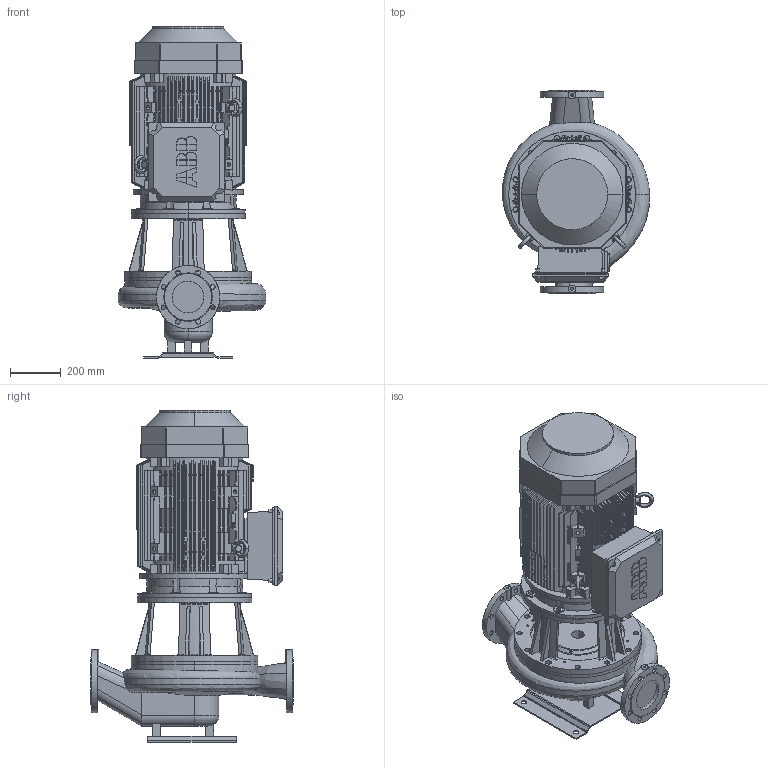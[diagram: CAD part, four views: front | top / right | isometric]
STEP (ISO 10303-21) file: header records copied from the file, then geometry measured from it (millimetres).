
FILE_DESCRIPTION(('STEP AP214'),'1');
FILE_NAME('export.stp','2018-05-30T07:07:08',(' '),(' '),'Spatial InterOp 3D',' ',' ');
FILE_SCHEMA(('AUTOMOTIVE_DESIGN { 1 0 10303 214 1 1 1 1 }'));
Length unit declared in the file: millimetre
Products named in the file (19): W_L125S4SD450; V_TLL125SAL1250; V_PPL125S; P100496; P100495; P100342; P101336; ICE-225; -simplified-simplified_parts_Sta; -simplified-simplified_parts_M32; 3GZV183002-193006-183002-183999_; 3GZV311000-999999-324000-324001_; -simplified-simplified_parts_Fan; -simplified-simplified_parts_Ter; 3GZV244000-310999-294000-299999_; ABBstandard-9ADA_Lifting_Eye_9AD
Assembly tree (20 placements, depth 3):
  W_L125S4SD450
    V_TLL125SAL1250
    V_PPL125S
    P100496
      P100495  x2
      P100342
    P101336
    ICE-225
      -simplified-simplified_parts_Sta
      -simplified-simplified_parts_M32
      3GZV183002-193006-183002-183999_
      3GZV311000-999999-324000-324001_
      -simplified-simplified_parts_Fan
      -simplified-simplified_parts_Ter
      -simplified-simplified_parts_Ter
      3GZV244000-310999-294000-299999_
      3GZV244000-310999-294000-299999_
      3GZV244000-310999-294000-299999_
      ABBstandard-9ADA_Lifting_Eye_9AD  x2
Bounding box: 581.36 x 800 x 1308.39 mm (x, y, z)
Volume: 144099751.8 mm3; surface area: 7273093.8 mm2
Topology: 15 solids, 221 shells, 2125 faces, 6445 edges, 4559 vertices
Faces by surface type: bspline 1733, cylinder 222, plane 106, torus 32, cone 32
Entity records: 118611 total; most frequent: CARTESIAN_POINT 39598, ORIENTED_EDGE 11538, STYLED_ITEM 6562, PRESENTATION_STYLE_ASSIGNMENT 6562, COLOUR_RGB 6562, EDGE_CURVE 6249, VERTEX_POINT 4427, CURVE_STYLE 4291
